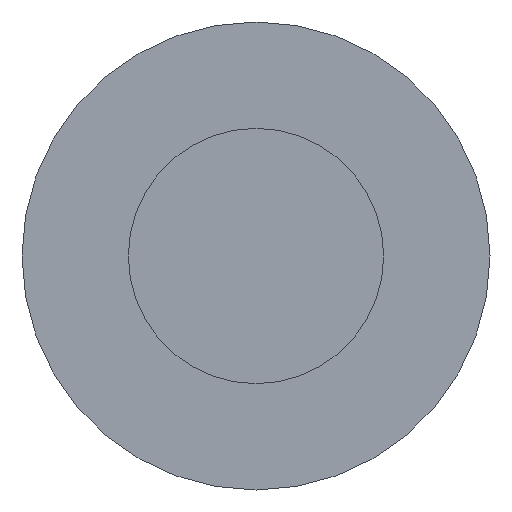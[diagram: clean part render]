
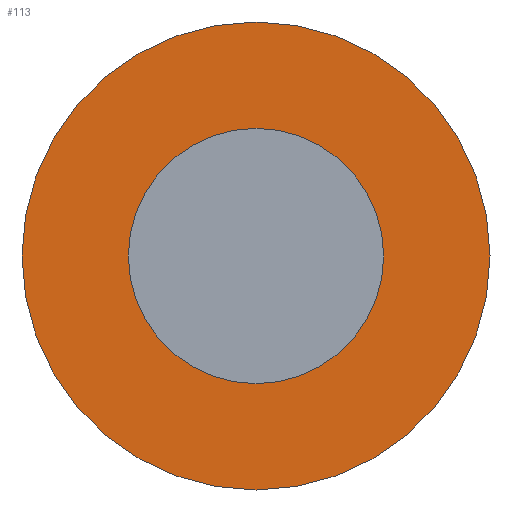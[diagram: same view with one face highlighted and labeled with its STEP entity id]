
A CAD part, left-side view. The second image highlights one B-rep face of the part: STEP entity #113.
In plain terms, the highlighted planar face has unit normal (-1, 0, 0).
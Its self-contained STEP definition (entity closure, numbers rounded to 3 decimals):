
#31 = CYLINDRICAL_SURFACE('',#32,3.);
#32 = AXIS2_PLACEMENT_3D('',#33,#34,#35);
#33 = CARTESIAN_POINT('',(566.,-19.053,-11.));
#34 = DIRECTION('',(-1.,-0.,-0.));
#35 = DIRECTION('',(0.,1.,0.));
#56 = VERTEX_POINT('',#57);
#57 = CARTESIAN_POINT('',(600.,-16.053,-11.));
#78 = EDGE_CURVE('',#56,#56,#79,.T.);
#79 = SURFACE_CURVE('',#80,(#85,#92),.PCURVE_S1.);
#80 = CIRCLE('',#81,3.);
#81 = AXIS2_PLACEMENT_3D('',#82,#83,#84);
#82 = CARTESIAN_POINT('',(600.,-19.053,-11.));
#83 = DIRECTION('',(-1.,0.,0.));
#84 = DIRECTION('',(0.,1.,0.));
#85 = PCURVE('',#31,#86);
#86 = DEFINITIONAL_REPRESENTATION('',(#87),#91);
#87 = LINE('',#88,#89);
#88 = CARTESIAN_POINT('',(-6.283,-34.));
#89 = VECTOR('',#90,1.);
#90 = DIRECTION('',(1.,-0.));
#91 = ( GEOMETRIC_REPRESENTATION_CONTEXT(2) 
PARAMETRIC_REPRESENTATION_CONTEXT() REPRESENTATION_CONTEXT('2D SPACE',''
  ) );
#92 = PCURVE('',#93,#98);
#93 = PLANE('',#94);
#94 = AXIS2_PLACEMENT_3D('',#95,#96,#97);
#95 = CARTESIAN_POINT('',(600.,-19.053,-11.));
#96 = DIRECTION('',(1.,0.,0.));
#97 = DIRECTION('',(-0.,0.,1.));
#98 = DEFINITIONAL_REPRESENTATION('',(#99),#107);
#99 = ( BOUNDED_CURVE() B_SPLINE_CURVE(2,(#100,#101,#102,#103,#104,#105,
#106),.UNSPECIFIED.,.T.,.F.) B_SPLINE_CURVE_WITH_KNOTS((1,2,2,2,2,1),(
    -2.094,0.,2.094,4.189,6.283,
8.378),.UNSPECIFIED.) CURVE() GEOMETRIC_REPRESENTATION_ITEM() 
RATIONAL_B_SPLINE_CURVE((1.,0.5,1.,0.5,1.,0.5,1.)) REPRESENTATION_ITEM(
  '') );
#100 = CARTESIAN_POINT('',(0.,-3.));
#101 = CARTESIAN_POINT('',(-5.196,-3.));
#102 = CARTESIAN_POINT('',(-2.598,1.5));
#103 = CARTESIAN_POINT('',(0.,6.));
#104 = CARTESIAN_POINT('',(2.598,1.5));
#105 = CARTESIAN_POINT('',(5.196,-3.));
#106 = CARTESIAN_POINT('',(0.,-3.));
#107 = ( GEOMETRIC_REPRESENTATION_CONTEXT(2) 
PARAMETRIC_REPRESENTATION_CONTEXT() REPRESENTATION_CONTEXT('2D SPACE',''
  ) );
#113 = ADVANCED_FACE('',(#114,#145),#93,.F.);
#114 = FACE_BOUND('',#115,.F.);
#115 = EDGE_LOOP('',(#116));
#116 = ORIENTED_EDGE('',*,*,#117,.T.);
#117 = EDGE_CURVE('',#118,#118,#120,.T.);
#118 = VERTEX_POINT('',#119);
#119 = CARTESIAN_POINT('',(600.,-13.553,-11.));
#120 = SURFACE_CURVE('',#121,(#126,#133),.PCURVE_S1.);
#121 = CIRCLE('',#122,5.5);
#122 = AXIS2_PLACEMENT_3D('',#123,#124,#125);
#123 = CARTESIAN_POINT('',(600.,-19.053,-11.));
#124 = DIRECTION('',(1.,0.,0.));
#125 = DIRECTION('',(0.,1.,0.));
#126 = PCURVE('',#93,#127);
#127 = DEFINITIONAL_REPRESENTATION('',(#128),#132);
#128 = CIRCLE('',#129,5.5);
#129 = AXIS2_PLACEMENT_2D('',#130,#131);
#130 = CARTESIAN_POINT('',(0.,0.));
#131 = DIRECTION('',(0.,-1.));
#132 = ( GEOMETRIC_REPRESENTATION_CONTEXT(2) 
PARAMETRIC_REPRESENTATION_CONTEXT() REPRESENTATION_CONTEXT('2D SPACE',''
  ) );
#133 = PCURVE('',#134,#139);
#134 = CYLINDRICAL_SURFACE('',#135,5.5);
#135 = AXIS2_PLACEMENT_3D('',#136,#137,#138);
#136 = CARTESIAN_POINT('',(600.,-19.053,-11.));
#137 = DIRECTION('',(-1.,-0.,-0.));
#138 = DIRECTION('',(0.,1.,0.));
#139 = DEFINITIONAL_REPRESENTATION('',(#140),#144);
#140 = LINE('',#141,#142);
#141 = CARTESIAN_POINT('',(-0.,0.));
#142 = VECTOR('',#143,1.);
#143 = DIRECTION('',(-1.,0.));
#144 = ( GEOMETRIC_REPRESENTATION_CONTEXT(2) 
PARAMETRIC_REPRESENTATION_CONTEXT() REPRESENTATION_CONTEXT('2D SPACE',''
  ) );
#145 = FACE_BOUND('',#146,.F.);
#146 = EDGE_LOOP('',(#147));
#147 = ORIENTED_EDGE('',*,*,#78,.T.);
